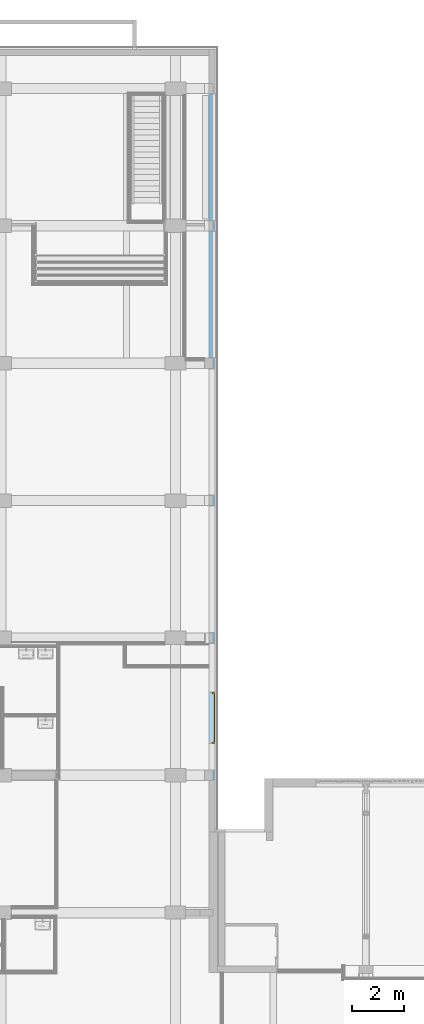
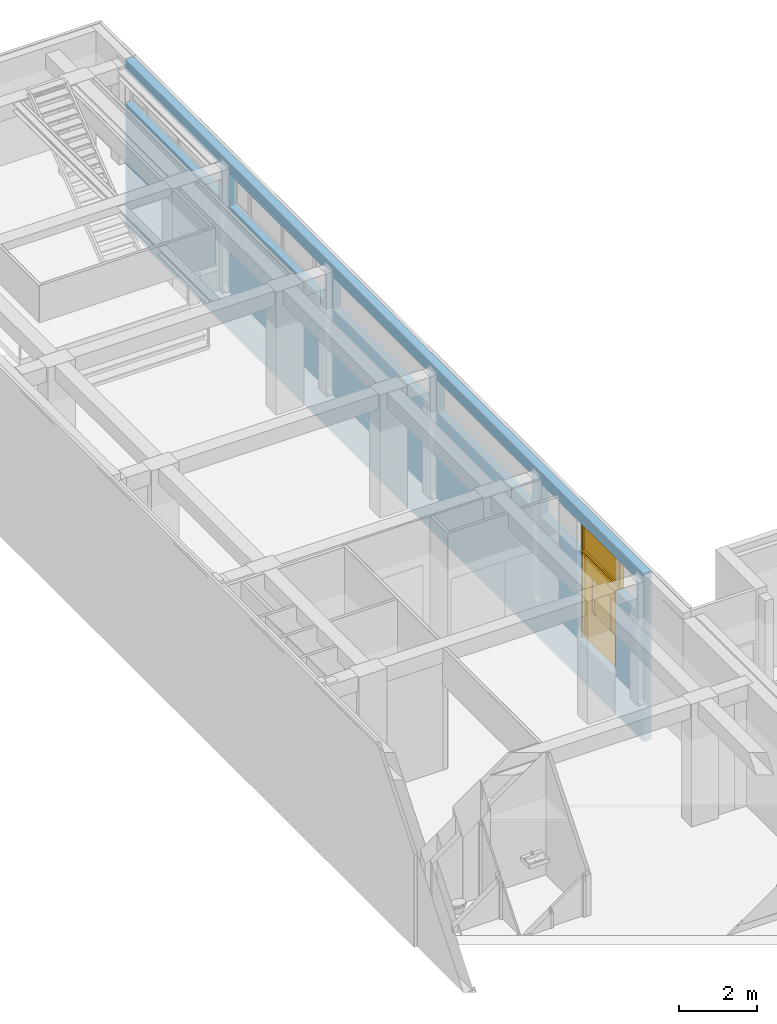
# One storey, part 78 of 135: 1 door, 6 openings, plus 1 element that does not belong to this part.
"""IFC2X3 building model written with IfcOpenShell, lengths in millimetres."""

from ifc_helpers import new_model, entity, si_unit, converted_unit, derived_unit, money_unit, direction, frame, origin_with_axes, place, context, subcontext, project, spatial, open_shell, faceted_brep, surface_model, material, type_object, element, fill, save


model = new_model("IFC2X3")

# Units and contexts
model_context = context("Model", 3, precision=0.01, world=origin_with_axes(), true_north=direction((0.0, 1.0)))
body_context = subcontext(model_context, "Body", "Model", "MODEL_VIEW")
ifc_project = project(units=[si_unit("LENGTHUNIT", "METRE", prefix="MILLI"), si_unit("AREAUNIT", "SQUARE_METRE"), si_unit("VOLUMEUNIT", "CUBIC_METRE"), converted_unit("PLANEANGLEUNIT", "DEGREE", entity("IfcPlaneAngleMeasure", 0.0174532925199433), si_unit("PLANEANGLEUNIT", "RADIAN"), dimensions=[0, 0, 0, 0, 0, 0, 0]), money_unit("EUR"), converted_unit("TIMEUNIT", "Year", entity("IfcTimeMeasure", 31557600.0), si_unit("TIMEUNIT", "SECOND"), dimensions=[0, 0, 1, 0, 0, 0, 0]), si_unit("MASSUNIT", "GRAM", prefix="KILO"), si_unit("THERMODYNAMICTEMPERATUREUNIT", "DEGREE_CELSIUS"), si_unit("LUMINOUSINTENSITYUNIT", "LUMEN"), si_unit("ENERGYUNIT", "JOULE", prefix="MEGA"), derived_unit("THERMALCONDUCTANCEUNIT", [(si_unit("POWERUNIT", "WATT"), 1), (si_unit("LENGTHUNIT", "METRE"), -1), (si_unit("THERMODYNAMICTEMPERATUREUNIT", "KELVIN"), -1)]), derived_unit("SPECIFICHEATCAPACITYUNIT", [(si_unit("ENERGYUNIT", "JOULE"), 1), (si_unit("MASSUNIT", "GRAM", prefix="KILO"), -1), (si_unit("THERMODYNAMICTEMPERATUREUNIT", "KELVIN"), -1)]), derived_unit("MASSDENSITYUNIT", [(si_unit("MASSUNIT", "GRAM", prefix="KILO"), 1), (si_unit("VOLUMEUNIT", "CUBIC_METRE"), -1)])], contexts=[model_context])

# Site, building, storey
site_placement = place(None, origin_with_axes())
site = spatial("IfcSite", under=ifc_project, at=site_placement, Name="Site", CompositionType="ELEMENT")
building_placement = place(site_placement, origin_with_axes())
building = spatial("IfcBuilding", under=site, at=building_placement, Name="Naam gebouw", CompositionType="ELEMENT")
storey_placement = place(building_placement, origin_with_axes())
storey = spatial("IfcBuildingStorey", under=building, at=storey_placement, Name="Begane grond N", CompositionType="ELEMENT", Elevation=0.0)

# Wall, openings, door
ifc_material = material(Name="ALG - CONSTRUCTIEF")
wall_type = type_object("IfcWallType", Name="ALG - CONSTRUCTIEF 240", PredefinedType="NOTDEFINED")
wall_placement = place(storey_placement, frame((29906.0, 54390.91242510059, -1200.0), z_axis=(0.0, 0.0, 1.0), x_axis=(0.0, -1.0, 0.0)))
wall = element("IfcWall", 1, at=wall_placement, inside=storey, type_object=wall_type, material=ifc_material, Name="_Wand-x", context=body_context, shape_type="Brep", body=[
    faceted_brep([(23204.99999999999, 0.0, 3900.000000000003), (23204.99999999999, 229.9999999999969, 3900.000000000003), (23204.99999999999, 239.9999999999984, 3900.000000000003), (21319.99999999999, 239.9999999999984, 3900.000000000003), (21319.99999999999, 0.0, 3900.000000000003), (23204.99999999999, 0.0, 1200.0), (23204.99999999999, 4.670124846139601, 1200.0), (23204.99999999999, 239.9999999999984, 1200.0), (26609.99999999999, 239.9999999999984, 5270.000000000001), (26609.99999999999, 239.9999999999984, 0.0), (0.0, 239.9999999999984, 0.0), (0.0, 240.000000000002, 3900.0), (4899.999999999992, 240.000000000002, 3900.0), (4899.999999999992, 240.000000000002, 4900.0), (0.0, 240.000000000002, 4900.0), (0.0, 240.000000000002, 5270.000000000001), (20889.99999999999, 239.9999999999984, 4900.0), (15989.99999999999, 239.9999999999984, 4900.0), (15989.99999999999, 239.9999999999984, 3900.0), (20889.99999999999, 239.9999999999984, 3900.0), (10660.0, 239.9999999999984, 3900.0), (15559.99999999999, 239.9999999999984, 3900.0), (15559.99999999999, 239.9999999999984, 4900.0), (10660.0, 239.9999999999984, 4900.0), (10229.99999999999, 240.000000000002, 4900.0), (5329.999999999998, 240.000000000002, 4900.0), (5329.999999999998, 240.000000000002, 3900.0), (10229.99999999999, 240.000000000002, 3900.0), (25204.99999999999, 239.9999999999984, 1200.0), (25204.99999999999, 239.9999999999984, 3900.000000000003), (26219.99999999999, 239.9999999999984, 3900.000000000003), (26219.99999999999, 239.9999999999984, 4900.000000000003), (21319.99999999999, 239.9999999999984, 4900.000000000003), (21319.99999999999, 0.0, 4900.000000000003), (26219.99999999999, 0.0, 4900.000000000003), (26219.99999999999, 0.0, 3900.000000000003), (25204.99999999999, 0.0, 3900.000000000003), (25204.99999999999, 0.0, 1200.0), (26234.99999999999, 0.0, 1200.0), (26234.99999999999, 0.0, 5150.0), (26609.99999999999, 0.0, 5150.0), (26609.99999999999, 0.0, 5270.000000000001), (0.0, 0.0, 5270.000000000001), (0.0, 0.0, 4900.0), (4899.999999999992, 0.0, 4900.0), (4899.999999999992, 0.0, 3900.0), (0.0, 0.0, 3900.0), (0.0, 0.0, 0.0), (26609.99999999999, 0.0, 0.0), (26609.99999999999, 0.0, 1000.0), (4914.999999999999, 0.0, 1000.0), (4914.999999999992, 0.0, 5150.0), (5314.999999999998, 0.0, 5150.0), (5314.999999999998, 0.0, 1200.0), (10244.99999999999, 0.0, 1200.0), (10244.99999999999, 0.0, 5150.0), (10645.0, 0.0, 5150.0), (10645.0, 0.0, 1200.0), (15574.99999999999, 0.0, 1200.0), (15574.99999999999, 0.0, 5150.0), (15974.99999999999, 0.0, 5150.0), (15974.99999999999, 0.0, 1200.0), (20904.99999999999, 0.0, 1200.0), (20904.99999999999, 0.0, 5150.0), (21304.99999999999, 0.0, 5150.0), (21304.99999999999, 0.0, 1200.0), (20889.99999999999, 0.0, 3900.0), (15989.99999999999, 0.0, 3900.0), (15989.99999999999, 0.0, 4900.0), (20889.99999999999, 0.0, 4900.0), (10660.0, 0.0, 4900.0), (15559.99999999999, 0.0, 4900.0), (15559.99999999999, 0.0, 3900.0), (10660.0, 0.0, 3900.0), (5329.999999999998, 0.0, 3900.0), (5329.999999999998, 0.0, 4900.0), (10229.99999999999, 0.0, 4900.0), (10229.99999999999, 0.0, 3900.0), (21304.99999999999, 7.276068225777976, 1200.0), (25204.99999999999, 1.927026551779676, 1200.0), (26609.99999999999, 149.9999999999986, 5150.0), (26609.99999999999, 149.9999999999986, 1100.0), (26609.99999999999, 0.0, 1100.0), (25204.99999999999, 229.9999999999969, 3900.000000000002), (26234.99999999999, 0.5143309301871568, 1200.0), (26234.99999999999, 149.9999999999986, 1100.0), (26234.99999999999, 149.9999999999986, 5150.0), (26234.99999999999, 0.5143309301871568, 1100.0), (4914.999999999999, 29.75575874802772, 1000.0), (4914.999999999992, 149.9999999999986, 1100.0), (4914.999999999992, 149.9999999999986, 5150.0), (4914.999999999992, 29.75575874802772, 1100.0), (5314.999999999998, 149.9999999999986, 5150.0), (5314.999999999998, 149.9999999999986, 1100.0), (5314.999999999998, 29.20713908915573, 1100.0), (5314.999999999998, 29.20713908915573, 1200.0), (10244.99999999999, 22.44540179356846, 1200.0), (10244.99999999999, 149.9999999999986, 1100.0), (10244.99999999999, 149.9999999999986, 5150.0), (10244.99999999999, 22.44540179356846, 1100.0), (10645.0, 149.9999999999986, 5150.0), (10645.0, 149.9999999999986, 1100.0), (10645.0, 21.89678213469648, 1100.0), (10645.0, 21.89678213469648, 1200.0), (15574.99999999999, 15.13504483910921, 1200.0), (15574.99999999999, 149.9999999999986, 1100.0), (15574.99999999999, 149.9999999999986, 5150.0), (15574.99999999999, 15.13504483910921, 1100.0), (15974.99999999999, 149.9999999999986, 5150.0), (15974.99999999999, 149.9999999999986, 1100.0), (15974.99999999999, 14.58642518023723, 1100.0), (15974.99999999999, 14.58642518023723, 1200.0), (20904.99999999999, 7.824687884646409, 1200.0), (20904.99999999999, 149.9999999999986, 1100.0), (20904.99999999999, 149.9999999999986, 5150.0), (20904.99999999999, 7.824687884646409, 1100.0), (21304.99999999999, 149.9999999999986, 5150.0), (21304.99999999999, 149.9999999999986, 1100.0), (21304.99999999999, 7.276068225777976, 1100.0)], [[[0, 1, 2, 3, 4]], [[1, 0, 5, 6, 7, 2]], [[8, 9, 10, 11, 12, 13, 14, 15], [16, 17, 18, 19], [20, 21, 22, 23], [24, 25, 26, 27], [3, 2, 7, 28, 29, 30, 31, 32]], [[4, 3, 32, 33]], [[5, 0, 4, 33, 34, 35, 36, 37, 38, 39, 40, 41, 42, 43, 44, 45, 46, 47, 48, 49, 50, 51, 52, 53, 54, 55, 56, 57, 58, 59, 60, 61, 62, 63, 64, 65], [66, 67, 68, 69], [70, 71, 72, 73], [74, 75, 76, 77]], [[6, 5, 65, 78]], [[6, 79, 28, 7]], [[9, 8, 41, 40, 80, 81, 82, 49, 48]], [[47, 10, 9, 48]], [[46, 11, 10, 47]], [[12, 11, 46, 45]], [[13, 12, 45, 44]], [[43, 14, 13, 44]], [[14, 43, 42, 15]], [[15, 42, 41, 8]], [[16, 69, 68, 17]], [[17, 68, 67, 18]], [[67, 66, 19, 18]], [[66, 69, 16, 19]], [[21, 20, 73, 72]], [[22, 21, 72, 71]], [[70, 23, 22, 71]], [[73, 20, 23, 70]], [[24, 76, 75, 25]], [[25, 75, 74, 26]], [[26, 74, 77, 27]], [[27, 77, 76, 24]], [[79, 37, 36, 83, 29, 28]], [[83, 36, 35, 30, 29]], [[31, 30, 35, 34]], [[33, 32, 31, 34]], [[37, 79, 84, 38]], [[85, 86, 39, 38, 84, 87]], [[40, 39, 86, 80]], [[50, 49, 88]], [[89, 90, 51, 50, 88, 91]], [[51, 90, 92, 52]], [[53, 52, 92, 93, 94, 95]], [[95, 96, 54, 53]], [[97, 98, 55, 54, 96, 99]], [[55, 98, 100, 56]], [[57, 56, 100, 101, 102, 103]], [[103, 104, 58, 57]], [[105, 106, 59, 58, 104, 107]], [[59, 106, 108, 60]], [[61, 60, 108, 109, 110, 111]], [[111, 112, 62, 61]], [[113, 114, 63, 62, 112, 115]], [[63, 114, 116, 64]], [[65, 64, 116, 117, 118, 78]], [[79, 6, 78, 118, 115, 112, 111, 110, 107, 104, 103, 102, 99, 96, 95, 94, 91, 88, 49, 82, 87, 84]], [[86, 85, 81, 80]], [[81, 85, 87, 82]], [[92, 90, 89, 93]], [[94, 93, 89, 91]], [[100, 98, 97, 101]], [[102, 101, 97, 99]], [[108, 106, 105, 109]], [[110, 109, 105, 107]], [[116, 114, 113, 117]], [[118, 117, 113, 115]]]),
])
opening_1_placement = place(wall_placement, frame((18439.99999999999, 0.0, 3900.0), z_axis=(0.0, 0.0, 1.0), x_axis=(1.0, 0.0, 0.0)))
element("IfcOpeningElement", 2, at=opening_1_placement, cuts=wall, Name="_", context=body_context, shape_type="Brep", body=[
    faceted_brep([(-2449.999999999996, 169.9999999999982, 0.0), (-2449.999999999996, 169.9999999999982, 1000.0), (-2449.999999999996, 241.0000000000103, 1000.0), (-2449.999999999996, 241.0000000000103, 0.0), (-2449.999999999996, -1.000000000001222, 0.0), (-2449.999999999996, -1.000000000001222, 1000.0), (2449.999999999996, 169.9999999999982, 1000.0), (2449.999999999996, 241.0000000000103, 1000.0), (2449.999999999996, -1.000000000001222, 1000.0), (2449.999999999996, 241.0000000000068, 0.0), (2449.999999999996, 169.9999999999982, 0.0), (2449.999999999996, -1.000000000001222, 0.0)], [[[0, 1, 2, 3]], [[1, 0, 4, 5]], [[6, 7, 2, 1, 5, 8]], [[7, 9, 3, 2]], [[0, 3, 9, 10, 11, 4]], [[5, 4, 11, 8]], [[6, 10, 9, 7]], [[10, 6, 8, 11]]]),
])
opening_2_placement = place(wall_placement, frame((7779.999999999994, 0.0, 3900.0), z_axis=(0.0, 0.0, 1.0), x_axis=(1.0, 0.0, 0.0)))
element("IfcOpeningElement", 3, at=opening_2_placement, cuts=wall, Name="_Merk-001", context=body_context, shape_type="Brep", body=[
    faceted_brep([(-2449.999999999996, -1.000000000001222, 1000.0), (-2449.999999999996, -1.000000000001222, 0.0), (2449.999999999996, -1.000000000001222, 0.0), (2449.999999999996, -1.000000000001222, 1000.0), (-2449.999999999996, 240.9999999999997, 1000.0), (-2449.999999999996, 240.9999999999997, 0.0), (2449.999999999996, 240.9999999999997, 0.0), (2449.999999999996, 240.9999999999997, 1000.0)], [[[0, 1, 2, 3]], [[4, 5, 1, 0]], [[5, 6, 2, 1]], [[6, 7, 3, 2]], [[7, 4, 0, 3]], [[6, 5, 4, 7]]]),
])
opening_3_placement = place(wall_placement, frame((2449.999999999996, 0.0, 3900.0), z_axis=(0.0, 0.0, 1.0), x_axis=(1.0, 0.0, 0.0)))
element("IfcOpeningElement", 4, at=opening_3_placement, cuts=wall, Name="_Merk-001", context=body_context, shape_type="Brep", body=[
    faceted_brep([(-2449.999999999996, -1.000000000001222, 1000.0), (-2449.999999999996, -1.000000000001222, 0.0), (2449.999999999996, -1.000000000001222, 0.0), (2449.999999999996, -1.000000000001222, 1000.0), (-2449.999999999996, 240.9999999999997, 1000.0), (-2449.999999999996, 240.9999999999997, 0.0), (2449.999999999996, 240.9999999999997, 0.0), (2449.999999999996, 240.9999999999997, 1000.0)], [[[0, 1, 2, 3]], [[4, 5, 1, 0]], [[5, 6, 2, 1]], [[6, 7, 3, 2]], [[7, 4, 0, 3]], [[6, 5, 4, 7]]]),
])
opening_4_placement = place(wall_placement, frame((13109.99999999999, 0.0, 3900.0), z_axis=(0.0, 0.0, 1.0), x_axis=(1.0, 0.0, 0.0)))
element("IfcOpeningElement", 5, at=opening_4_placement, cuts=wall, Name="_Merk-x", context=body_context, shape_type="Brep", body=[
    faceted_brep([(-2449.999999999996, 169.9999999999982, 0.0), (-2449.999999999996, 169.9999999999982, 1000.0), (-2449.999999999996, 241.0000000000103, 1000.0), (-2449.999999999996, 241.0000000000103, 0.0), (-2449.999999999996, -1.000000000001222, 0.0), (-2449.999999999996, -1.000000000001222, 1000.0), (2449.999999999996, 169.9999999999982, 1000.0), (2449.999999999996, 241.0000000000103, 1000.0), (2449.999999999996, -1.000000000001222, 1000.0), (2449.999999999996, 241.0000000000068, 0.0), (2449.999999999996, 169.9999999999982, 0.0), (2449.999999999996, -1.000000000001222, 0.0)], [[[0, 1, 2, 3]], [[1, 0, 4, 5]], [[6, 7, 2, 1, 5, 8]], [[7, 9, 3, 2]], [[0, 3, 9, 10, 11, 4]], [[5, 4, 11, 8]], [[6, 10, 9, 7]], [[10, 6, 8, 11]]]),
])
opening_5_placement = place(wall_placement, frame((24204.99999999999, 0.0, 1200.0), z_axis=(0.0, 0.0, 1.0), x_axis=(1.0, 0.0, 0.0)))
opening_5 = element("IfcOpeningElement", 6, at=opening_5_placement, cuts=wall, Name="_Merk-003", context=body_context, shape_type="Brep", body=[
    faceted_brep([(-1000.0, 229.9999999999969, 0.0), (-1000.0, 229.9999999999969, 3700.000000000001), (-1000.0, 240.9999999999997, 3700.000000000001), (-1000.0, 240.9999999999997, 0.0), (-1000.0, -1.000000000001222, 0.0), (-1000.0, -1.000000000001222, 3700.000000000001), (1000.0, 229.9999999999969, 3700.000000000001), (1000.0, 240.9999999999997, 3700.000000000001), (1000.0, -1.000000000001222, 3700.000000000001), (1000.0, 240.9999999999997, 0.0), (1000.0, 229.9999999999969, 0.0), (1000.0, -1.000000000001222, 0.0)], [[[0, 1, 2, 3]], [[1, 0, 4, 5]], [[6, 7, 2, 1, 5, 8]], [[7, 9, 3, 2]], [[0, 3, 9, 10, 11, 4]], [[5, 4, 11, 8]], [[6, 10, 9, 7]], [[10, 6, 8, 11]]]),
])
opening_6_placement = place(wall_placement, frame((23769.99999999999, 0.0, 3900.000000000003), z_axis=(0.0, 0.0, 1.0), x_axis=(1.0, 0.0, 0.0)))
element("IfcOpeningElement", 7, at=opening_6_placement, cuts=wall, Name="_Merk-x", context=body_context, shape_type="Brep", body=[
    faceted_brep([(-2449.999999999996, 169.9999999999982, 0.0), (-2449.999999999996, 169.9999999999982, 1000.0), (-2449.999999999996, 241.0000000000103, 1000.0), (-2449.999999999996, 241.0000000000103, 0.0), (-2449.999999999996, -1.000000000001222, 0.0), (-2449.999999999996, -1.000000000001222, 1000.0), (2449.999999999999, 169.9999999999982, 1000.0), (2449.999999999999, 241.0000000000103, 1000.0), (2449.999999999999, -1.000000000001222, 1000.0), (2449.999999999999, 241.0000000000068, 0.0), (2449.999999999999, 169.9999999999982, 0.0), (2449.999999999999, -1.000000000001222, 0.0)], [[[0, 1, 2, 3]], [[1, 0, 4, 5]], [[6, 7, 2, 1, 5, 8]], [[7, 9, 3, 2]], [[0, 3, 9, 10, 11, 4]], [[5, 4, 11, 8]], [[6, 10, 9, 7]], [[10, 6, 8, 11]]]),
])
door_style = type_object("IfcDoorStyle", Name="D2 bl 26", ConstructionType="NOTDEFINED", OperationType="DOUBLE_DOOR_SINGLE_SWING", ParameterTakesPrecedence=False, Sizeable=False)
door_placement = place(opening_5_placement, frame((-1000.0, 0.0, 0.0), z_axis=(0.0, 0.0, 1.0), x_axis=(1.0, 0.0, 0.0)))
door = element("IfcDoor", 8, at=door_placement, inside=storey, type_object=door_style, Name="_Merk-003", ObjectType="DOOR", OverallHeight=3700.0, OverallWidth=2000.0, context=body_context, shape_type="SurfaceModel", body=[
    faceted_brep([(1933.0, 189.9999999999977, 2717.0), (1933.0, 189.9999999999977, 0.0), (1933.0, 115.9999999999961, 0.0), (1933.0, 115.9999999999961, 2700.0), (1933.0, 115.9999999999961, 2767.0), (1933.0, 229.9999999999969, 2767.0), (1933.0, 229.9999999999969, 2717.0), (1949.999999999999, 189.9999999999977, 2717.0), (1949.999999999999, 189.9999999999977, 0.0), (1949.999999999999, 229.9999999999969, 0.0), (2000.0, 229.9999999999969, 0.0), (2000.0, 115.9999999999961, 0.0), (2000.0, 115.9999999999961, 3633.000000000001), (1933.0, 115.9999999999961, 3633.000000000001), (1933.0, 229.9999999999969, 3633.000000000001), (1949.999999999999, 229.9999999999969, 2717.0), (2000.0, 229.9999999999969, 3633.000000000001)], [[[0, 1, 2, 3, 4, 5, 6]], [[0, 7, 8, 1]], [[8, 9, 10, 11, 2, 1]], [[4, 3, 2, 11, 12, 13]], [[14, 5, 4, 13]], [[15, 6, 5, 14, 16, 10, 9]], [[6, 15, 7, 0]], [[9, 8, 7, 15]], [[10, 16, 12, 11]], [[16, 14, 13, 12]]]),
    faceted_brep([(50.00000000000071, 229.9999999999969, 2717.0), (50.00000000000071, 229.9999999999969, 0.0), (0.0, 229.9999999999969, 0.0), (0.0, 229.9999999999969, 3633.000000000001), (67.00000000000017, 229.9999999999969, 3633.000000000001), (67.00000000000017, 229.9999999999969, 2767.0), (67.00000000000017, 229.9999999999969, 2717.0), (50.00000000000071, 189.9999999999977, 2717.0), (50.00000000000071, 189.9999999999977, 0.0), (67.00000000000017, 189.9999999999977, 0.0), (67.00000000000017, 115.9999999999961, 0.0), (0.0, 115.9999999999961, 0.0), (0.0, 115.9999999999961, 3633.000000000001), (67.00000000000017, 115.9999999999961, 3633.000000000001), (67.00000000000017, 115.9999999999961, 2767.0), (67.00000000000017, 189.9999999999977, 2717.0), (67.00000000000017, 115.9999999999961, 2700.0)], [[[0, 1, 2, 3, 4, 5, 6]], [[0, 7, 8, 1]], [[8, 9, 10, 11, 2, 1]], [[3, 2, 11, 12]], [[4, 3, 12, 13]], [[5, 4, 13, 14]], [[15, 6, 5, 14, 16, 10, 9]], [[6, 15, 7, 0]], [[8, 7, 15, 9]], [[14, 13, 12, 11, 10, 16]]]),
    faceted_brep([(2000.0, 229.9999999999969, 3700.000000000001), (2000.0, 115.9999999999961, 3700.000000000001), (2000.0, 115.9999999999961, 3633.000000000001), (2000.0, 229.9999999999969, 3633.000000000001), (0.0, 229.9999999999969, 3700.000000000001), (0.0, 115.9999999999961, 3700.000000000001), (0.0, 115.9999999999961, 3633.000000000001), (67.00000000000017, 115.9999999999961, 3633.000000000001), (1933.0, 115.9999999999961, 3633.000000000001), (1933.0, 229.9999999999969, 3633.000000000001), (67.00000000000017, 229.9999999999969, 3633.000000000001), (0.0, 229.9999999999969, 3633.000000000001)], [[[0, 1, 2, 3]], [[4, 5, 1, 0]], [[1, 5, 6, 7, 8, 2]], [[3, 2, 8, 9]], [[0, 3, 9, 10, 11, 4]], [[11, 6, 5, 4]], [[10, 7, 6, 11]], [[9, 8, 7, 10]]]),
    faceted_brep([(67.00000000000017, 189.9999999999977, 2717.0), (67.00000000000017, 189.9999999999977, 2700.0), (67.00000000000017, 115.9999999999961, 2700.0), (67.00000000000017, 115.9999999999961, 2767.0), (67.00000000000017, 229.9999999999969, 2767.0), (67.00000000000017, 229.9999999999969, 2717.0), (1933.0, 189.9999999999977, 2717.0), (1933.0, 189.9999999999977, 2700.0), (1933.0, 115.9999999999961, 2700.0), (1933.0, 115.9999999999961, 2767.0), (1933.0, 229.9999999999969, 2767.0), (1933.0, 229.9999999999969, 2717.0)], [[[0, 1, 2, 3, 4, 5]], [[0, 6, 7, 1]], [[7, 8, 2, 1]], [[8, 9, 3, 2]], [[10, 4, 3, 9]], [[5, 4, 10, 11]], [[5, 11, 6, 0]], [[6, 11, 10, 9, 8, 7]]]),
    faceted_brep([(50.00000000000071, 229.9999999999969, 1000.0), (425.0000000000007, 229.9999999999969, 1000.0), (425.0000000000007, 189.9999999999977, 1000.0), (50.00000000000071, 189.9999999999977, 1000.0), (50.00000000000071, 229.9999999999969, 2017.0), (425.0000000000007, 229.9999999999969, 2017.0), (425.0000000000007, 189.9999999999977, 2017.0), (50.00000000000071, 189.9999999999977, 2017.0)], [[[0, 1, 2, 3]], [[0, 4, 5, 1]], [[1, 5, 6, 2]], [[3, 2, 6, 7]], [[4, 0, 3, 7]], [[5, 4, 7, 6]]]),
    faceted_brep([(1000.0, 229.9999999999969, 1000.0), (1000.0, 229.9999999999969, 2017.0), (1000.0, 189.9999999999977, 2017.0), (1000.0, 189.9999999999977, 1000.0), (625.0, 229.9999999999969, 1000.0), (625.0, 229.9999999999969, 2017.0), (625.0, 189.9999999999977, 2017.0), (625.0, 189.9999999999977, 1000.0)], [[[0, 1, 2, 3]], [[0, 4, 5, 1]], [[1, 5, 6, 2]], [[3, 2, 6, 7]], [[4, 0, 3, 7]], [[5, 4, 7, 6]]]),
    faceted_brep([(50.00000000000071, 229.9999999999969, 0.0), (1000.0, 229.9999999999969, 0.0), (1000.0, 189.9999999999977, 0.0), (50.00000000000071, 189.9999999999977, 0.0), (50.00000000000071, 229.9999999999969, 1000.0), (425.0000000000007, 229.9999999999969, 1000.0), (625.0, 229.9999999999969, 1000.0), (1000.0, 229.9999999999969, 1000.0), (1000.0, 189.9999999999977, 1000.0), (625.0, 189.9999999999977, 1000.0), (425.0000000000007, 189.9999999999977, 1000.0), (50.00000000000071, 189.9999999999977, 1000.0)], [[[0, 1, 2, 3]], [[0, 4, 5, 6, 7, 1]], [[1, 7, 8, 2]], [[3, 2, 8, 9, 10, 11]], [[4, 0, 3, 11]], [[5, 4, 11, 10]], [[6, 5, 10, 9]], [[7, 6, 9, 8]]]),
    faceted_brep([(50.00000000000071, 229.9999999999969, 2717.0), (50.00000000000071, 229.9999999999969, 2017.0), (50.00000000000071, 189.9999999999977, 2017.0), (50.00000000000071, 189.9999999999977, 2717.0), (1000.0, 229.9999999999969, 2717.0), (1000.0, 229.9999999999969, 2017.0), (625.0, 229.9999999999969, 2017.0), (425.0000000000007, 229.9999999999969, 2017.0), (425.0000000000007, 189.9999999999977, 2017.0), (625.0, 189.9999999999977, 2017.0), (1000.0, 189.9999999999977, 2017.0), (1000.0, 189.9999999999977, 2717.0)], [[[0, 1, 2, 3]], [[0, 4, 5, 6, 7, 1]], [[1, 7, 8, 2]], [[3, 2, 8, 9, 10, 11]], [[4, 0, 3, 11]], [[5, 4, 11, 10]], [[6, 5, 10, 9]], [[7, 6, 9, 8]]]),
    surface_model("IfcShellBasedSurfaceModel", [(625.0, 215.9999999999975, 1000.0), (425.0000000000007, 215.9999999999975, 1000.0), (425.0000000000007, 215.9999999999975, 2017.0), (625.0, 215.9999999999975, 2017.0)], [open_shell([[[0, 1, 2, 3]]])]),
    surface_model("IfcShellBasedSurfaceModel", [(625.0, 203.9999999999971, 1000.0), (625.0, 203.9999999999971, 2017.0), (425.0000000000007, 203.9999999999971, 2017.0), (425.0000000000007, 203.9999999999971, 1000.0)], [open_shell([[[0, 1, 2, 3]]])]),
    faceted_brep([(1949.999999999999, 229.9999999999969, 1000.0), (1949.999999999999, 189.9999999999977, 1000.0), (1574.999999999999, 189.9999999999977, 1000.0), (1574.999999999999, 229.9999999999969, 1000.0), (1949.999999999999, 229.9999999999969, 2017.0), (1949.999999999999, 189.9999999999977, 2017.0), (1574.999999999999, 189.9999999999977, 2017.0), (1574.999999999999, 229.9999999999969, 2017.0)], [[[0, 1, 2, 3]], [[4, 5, 1, 0]], [[1, 5, 6, 2]], [[3, 2, 6, 7]], [[0, 3, 7, 4]], [[7, 6, 5, 4]]]),
    faceted_brep([(1000.0, 229.9999999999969, 1000.0), (1000.0, 189.9999999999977, 1000.0), (1000.0, 189.9999999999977, 2017.0), (1000.0, 229.9999999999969, 2017.0), (1375.0, 229.9999999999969, 1000.0), (1375.0, 189.9999999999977, 1000.0), (1375.0, 189.9999999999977, 2017.0), (1375.0, 229.9999999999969, 2017.0)], [[[0, 1, 2, 3]], [[4, 5, 1, 0]], [[1, 5, 6, 2]], [[3, 2, 6, 7]], [[0, 3, 7, 4]], [[7, 6, 5, 4]]]),
    faceted_brep([(1949.999999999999, 229.9999999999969, 0.0), (1949.999999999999, 189.9999999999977, 0.0), (1000.0, 189.9999999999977, 0.0), (1000.0, 229.9999999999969, 0.0), (1949.999999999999, 229.9999999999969, 1000.0), (1949.999999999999, 189.9999999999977, 1000.0), (1574.999999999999, 189.9999999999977, 1000.0), (1375.0, 189.9999999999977, 1000.0), (1000.0, 189.9999999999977, 1000.0), (1000.0, 229.9999999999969, 1000.0), (1375.0, 229.9999999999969, 1000.0), (1574.999999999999, 229.9999999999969, 1000.0)], [[[0, 1, 2, 3]], [[4, 5, 1, 0]], [[1, 5, 6, 7, 8, 2]], [[3, 2, 8, 9]], [[0, 3, 9, 10, 11, 4]], [[11, 6, 5, 4]], [[10, 7, 6, 11]], [[9, 8, 7, 10]]]),
    faceted_brep([(1949.999999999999, 229.9999999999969, 2717.0), (1949.999999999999, 189.9999999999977, 2717.0), (1949.999999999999, 189.9999999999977, 2017.0), (1949.999999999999, 229.9999999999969, 2017.0), (1000.0, 229.9999999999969, 2717.0), (1000.0, 189.9999999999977, 2717.0), (1000.0, 189.9999999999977, 2017.0), (1375.0, 189.9999999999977, 2017.0), (1574.999999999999, 189.9999999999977, 2017.0), (1574.999999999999, 229.9999999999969, 2017.0), (1375.0, 229.9999999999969, 2017.0), (1000.0, 229.9999999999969, 2017.0)], [[[0, 1, 2, 3]], [[4, 5, 1, 0]], [[1, 5, 6, 7, 8, 2]], [[3, 2, 8, 9]], [[0, 3, 9, 10, 11, 4]], [[11, 6, 5, 4]], [[10, 7, 6, 11]], [[9, 8, 7, 10]]]),
    surface_model("IfcShellBasedSurfaceModel", [(1375.0, 215.9999999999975, 1000.0), (1375.0, 215.9999999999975, 2017.0), (1574.999999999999, 215.9999999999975, 2017.0), (1574.999999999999, 215.9999999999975, 1000.0)], [open_shell([[[0, 1, 2, 3]]])]),
    surface_model("IfcShellBasedSurfaceModel", [(1375.0, 203.9999999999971, 1000.0), (1574.999999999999, 203.9999999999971, 1000.0), (1574.999999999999, 203.9999999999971, 2017.0), (1375.0, 203.9999999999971, 2017.0)], [open_shell([[[0, 1, 2, 3]]])]),
    surface_model("IfcShellBasedSurfaceModel", [(1933.0, 175.9999999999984, 2767.0), (67.00000000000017, 175.9999999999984, 2767.0), (67.00000000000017, 175.9999999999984, 3633.000000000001), (1933.0, 175.9999999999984, 3633.000000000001)], [open_shell([[[0, 1, 2, 3]]])]),
    surface_model("IfcShellBasedSurfaceModel", [(1933.0, 163.9999999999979, 2767.0), (1933.0, 163.9999999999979, 3633.000000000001), (67.00000000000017, 163.9999999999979, 3633.000000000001), (67.00000000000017, 163.9999999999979, 2767.0)], [open_shell([[[0, 1, 2, 3]]])]),
])
fill(opening_5, door)

save(model, "model.ifc")
